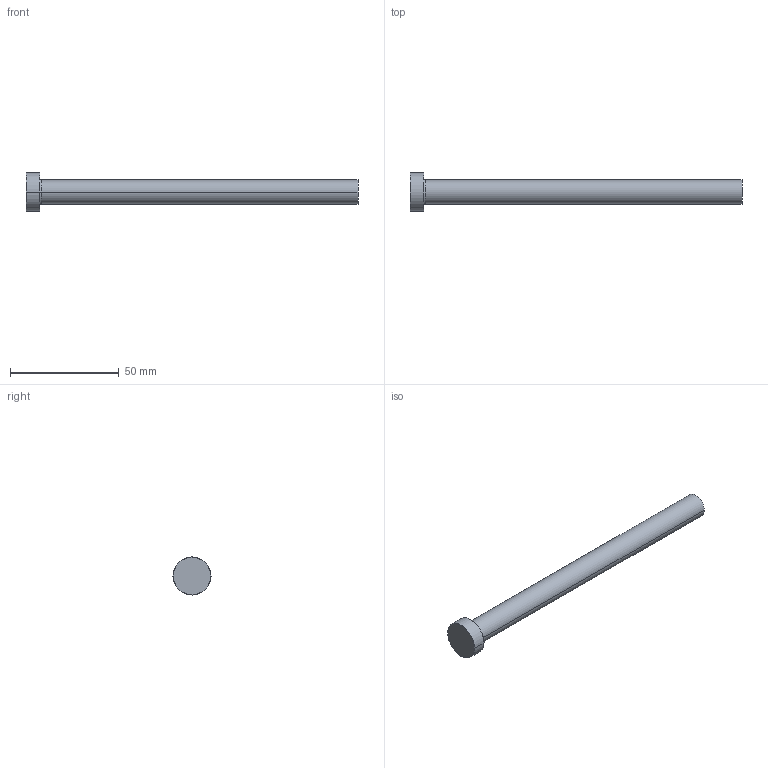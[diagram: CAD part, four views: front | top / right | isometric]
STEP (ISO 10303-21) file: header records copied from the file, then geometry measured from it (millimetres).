
FILE_DESCRIPTION (( 'STEP AP214' ), '1' );
FILE_NAME ('P29-6.STEP', '2020-03-12T10:27:13', ( '' ), ( '' ), 'SwSTEP 2.0', 'SolidWorks 2018', '' );
FILE_SCHEMA (( 'AUTOMOTIVE_DESIGN' ));
Length unit declared in the file: inch
Products named in the file (1): P29-6
Bounding box: 152.4 x 17.46 x 17.46 mm (x, y, z)
Volume: 15670.3 mm3; surface area: 5904.9 mm2
Topology: 1 solids, 1 shells, 13 faces, 24 edges, 14 vertices
Faces by surface type: cone 4, cylinder 4, plane 3, torus 2
Entity records: 366 total; most frequent: DIRECTION 68, CARTESIAN_POINT 52, ORIENTED_EDGE 48, AXIS2_PLACEMENT_3D 30, EDGE_CURVE 24, CIRCLE 16, EDGE_LOOP 14, VERTEX_POINT 14
